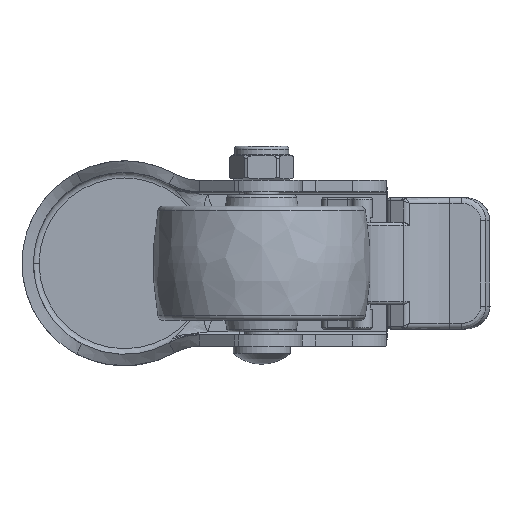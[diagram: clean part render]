
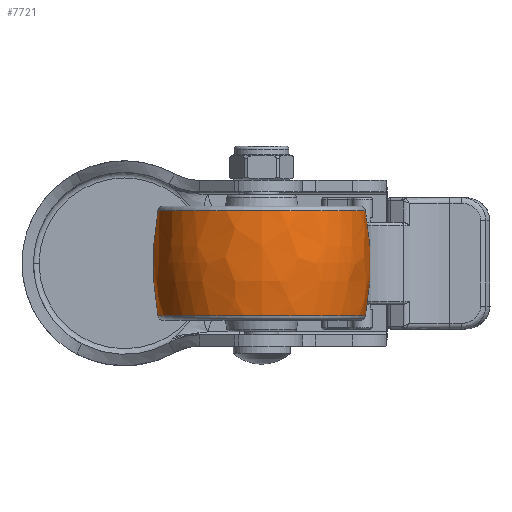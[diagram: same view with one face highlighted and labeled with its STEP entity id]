
A CAD part, front view. The second image highlights one B-rep face of the part: STEP entity #7721.
In plain terms, the highlighted free-form (B-spline) face has degree [3, 3] with [7, 4] control points.
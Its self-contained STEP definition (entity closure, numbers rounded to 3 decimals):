
#7337=CARTESIAN_POINT('',(0.,-31.,0.));
#7338=DIRECTION('',(0.,0.,1.));
#7339=DIRECTION('',(0.184,0.983,0.));
#7340=AXIS2_PLACEMENT_3D('',#7337,#7338,#7339);
#7342=CARTESIAN_POINT('',(0.,31.,0.));
#7343=DIRECTION('',(0.,0.,-1.));
#7344=DIRECTION('',(0.184,-0.983,0.));
#7345=AXIS2_PLACEMENT_3D('',#7342,#7343,#7344);
#7347=CARTESIAN_POINT('',(9.184,0.,0.));
#7348=DIRECTION('',(-1.,0.,0.));
#7349=DIRECTION('',(0.,1.,0.));
#7350=AXIS2_PLACEMENT_3D('',#7347,#7348,#7349);
#7372=CARTESIAN_POINT('',(-9.184,0.,0.));
#7373=DIRECTION('',(-1.,0.,0.));
#7374=DIRECTION('',(0.,1.,0.));
#7375=AXIS2_PLACEMENT_3D('',#7372,#7373,#7374);
#7494=CARTESIAN_POINT('',(9.184,18.149,0.));
#7496=VERTEX_POINT('',#7494);
#7497=CARTESIAN_POINT('',(-9.184,18.149,0.));
#7498=VERTEX_POINT('',#7497);
#7502=CARTESIAN_POINT('',(9.184,-18.149,0.));
#7504=VERTEX_POINT('',#7502);
#7505=CARTESIAN_POINT('',(-9.184,-18.149,0.));
#7506=VERTEX_POINT('',#7505);
#7683=CARTESIAN_POINT('',(-9.547,-18.044,
1.135));
#7684=CARTESIAN_POINT('',(-3.222,-19.272,
1.213));
#7685=CARTESIAN_POINT('',(3.222,-19.272,1.213));
#7686=CARTESIAN_POINT('',(9.547,-18.044,1.135));
#7687=CARTESIAN_POINT('',(-9.547,-18.743,
-9.969));
#7688=CARTESIAN_POINT('',(-3.222,-20.018,
-10.648));
#7689=CARTESIAN_POINT('',(3.222,-20.018,
-10.648));
#7690=CARTESIAN_POINT('',(9.547,-18.743,
-9.969));
#7691=CARTESIAN_POINT('',(-9.547,-11.127,
-18.08));
#7692=CARTESIAN_POINT('',(-3.222,-11.884,
-19.31));
#7693=CARTESIAN_POINT('',(3.222,-11.884,
-19.31));
#7694=CARTESIAN_POINT('',(9.547,-11.127,
-18.08));
#7695=CARTESIAN_POINT('',(-9.547,0.,-18.08));
#7696=CARTESIAN_POINT('',(-3.222,0.,-19.31));
#7697=CARTESIAN_POINT('',(3.222,0.,-19.31));
#7698=CARTESIAN_POINT('',(9.547,0.,-18.08));
#7699=CARTESIAN_POINT('',(-9.547,11.127,
-18.08));
#7700=CARTESIAN_POINT('',(-3.222,11.884,
-19.31));
#7701=CARTESIAN_POINT('',(3.222,11.884,-19.31));
#7702=CARTESIAN_POINT('',(9.547,11.127,-18.08));
#7703=CARTESIAN_POINT('',(-9.547,18.743,
-9.969));
#7704=CARTESIAN_POINT('',(-3.222,20.018,
-10.648));
#7705=CARTESIAN_POINT('',(3.222,20.018,-10.648));
#7706=CARTESIAN_POINT('',(9.547,18.743,-9.969));
#7707=CARTESIAN_POINT('',(-9.547,18.044,1.135));
#7708=CARTESIAN_POINT('',(-3.222,19.272,1.213));
#7709=CARTESIAN_POINT('',(3.222,19.272,1.213));
#7710=CARTESIAN_POINT('',(9.547,18.044,1.135));
#7711=(BOUNDED_SURFACE()B_SPLINE_SURFACE(3,3,((#7683,#7684,#7685,#7686),(#7687,
#7688,#7689,#7690),(#7691,#7692,#7693,#7694),(#7695,#7696,#7697,#7698),(#7699,
#7700,#7701,#7702),(#7703,#7704,#7705,#7706),(#7707,#7708,#7709,#7710)),
.UNSPECIFIED.,.F.,.F.,.F.)B_SPLINE_SURFACE_WITH_KNOTS((4,3,4),(4,4),(0.,1.,
2.),(0.,1.),.UNSPECIFIED.)GEOMETRIC_REPRESENTATION_ITEM()RATIONAL_B_SPLINE_SURFACE(((1.198,1.184,1.184,1.198),(
0.946,0.935,0.935,0.946),(
0.946,0.935,0.935,0.946),(
1.198,1.184,1.184,1.198),(
0.946,0.935,0.935,0.946),(
0.946,0.935,0.935,0.946),(
1.198,1.184,1.184,1.198)))REPRESENTATION_ITEM('')SURFACE());
#7713=ORIENTED_EDGE('',*,*,#7712,.T.);
#7715=ORIENTED_EDGE('',*,*,#7714,.T.);
#7717=ORIENTED_EDGE('',*,*,#7716,.F.);
#7718=ORIENTED_EDGE('',*,*,#7676,.F.);
#7719=EDGE_LOOP('',(#7713,#7715,#7717,#7718));
#7720=FACE_OUTER_BOUND('',#7719,.F.);
#7341=CIRCLE('',#7340,50.);
#7346=CIRCLE('',#7345,50.);
#7351=CIRCLE('',#7350,18.149);
#7376=CIRCLE('',#7375,18.149);
#7676=EDGE_CURVE('',#7496,#7504,#7351,.T.);
#7712=EDGE_CURVE('',#7496,#7498,#7341,.T.);
#7714=EDGE_CURVE('',#7498,#7506,#7376,.T.);
#7716=EDGE_CURVE('',#7504,#7506,#7346,.T.);
#7721=ADVANCED_FACE('',(#7720),#7711,.T.);
